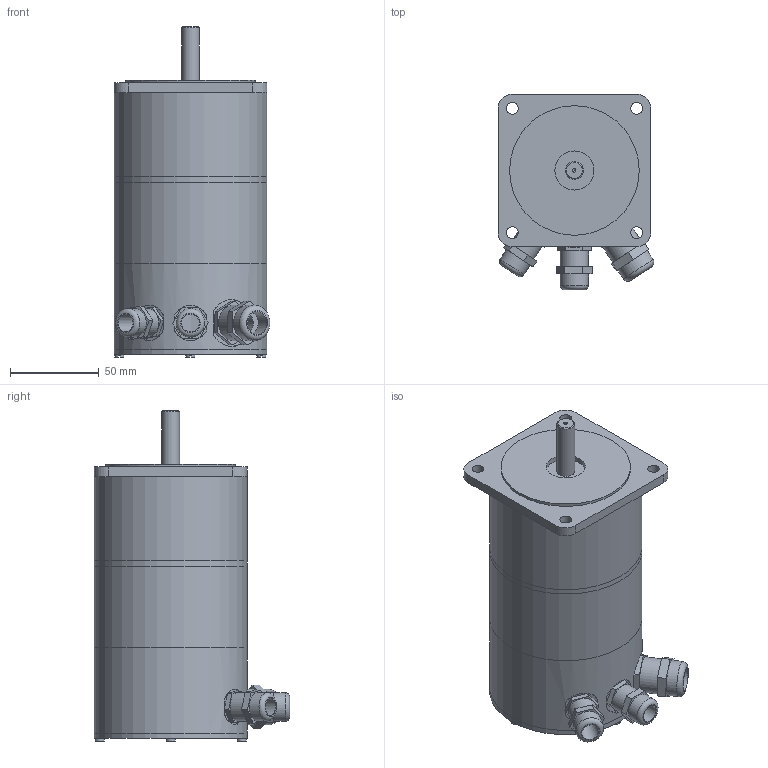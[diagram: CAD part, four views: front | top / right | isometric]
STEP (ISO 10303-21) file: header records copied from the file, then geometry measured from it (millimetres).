
FILE_DESCRIPTION((''),'2;1');
FILE_NAME('C:\Users\Reinhard\Documents\Inventor\Testschrittmotor\SM87\SM87.1-BH200-KV.stp','2012-11-12T22:01:32',('Reinhard'),(''),'Autodesk Inventor 2012','Autodesk Inventor 2012','');
FILE_SCHEMA(('CONFIG_CONTROL_DESIGN'));
Length unit declared in the file: millimetre
Products named in the file (1): SM87
Bounding box: 87.8 x 110 x 186 mm (x, y, z)
Volume: 191114.8 mm3; surface area: 123399.5 mm2
Topology: 2 solids, 3 shells, 166 faces, 378 edges, 248 vertices
Faces by surface type: plane 106, cylinder 55, torus 3, cone 2
Full cylindrical faces by diameter (mm): 2 x1, 5 x4, 6.6 x4, 10 x3, 12 x3, 13 x2, 15 x1, 16 x4, 18.376 x1, 20 x3, 22 x1, 73 x1, 78 x2, 82 x2, 86 x5
Entity records: 4581 total; most frequent: CARTESIAN_POINT 938, DIRECTION 750, ORIENTED_EDGE 652, EDGE_CURVE 326, AXIS2_PLACEMENT_3D 280, EDGE_LOOP 254, VERTEX_POINT 238, VECTOR 190
